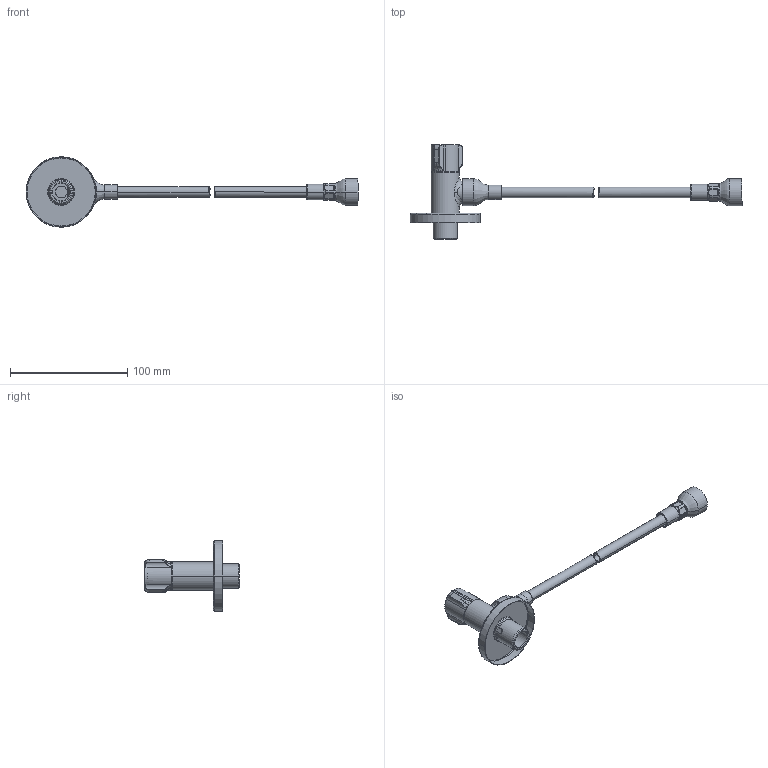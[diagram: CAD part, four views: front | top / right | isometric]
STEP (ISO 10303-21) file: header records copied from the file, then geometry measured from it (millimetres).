
FILE_DESCRIPTION((''),'2;1');
FILE_NAME('48755--00_ASM','2025-03-03T15:14:32',('clra1'),(''),'CREO PARAMETRIC BY PTC INC, 2022244','CREO PARAMETRIC BY PTC INC, 2022244','');
FILE_SCHEMA(('CONFIG_CONTROL_DESIGN'));
Length unit declared in the file: millimetre
Products named in the file (19): 46790--; 4679100; 46789--; 46821--; 46822--_ASM; SPX_M10-DN6; SPX_MANCHET-DN6; SPX_SPX-DN6; 4968700_; SLANGE_NIPPEL_38_OML-DN6; SLANGE_PAKN_38; SLANGE_OML_38; SLANGE_NIPPEL_KOMPL_38-DN6_ASM; 4683400_ASM; 46836--; 46831--; 8904700; 4459800; 48755--00_ASM
Assembly tree (19 placements, depth 4):
  48755--00_ASM
    46822--_ASM
      46790--
      4679100
      46789--
      46821--
    4683400_ASM
      SPX_M10-DN6
      SPX_MANCHET-DN6  x2
      SPX_SPX-DN6
      4968700_
      SLANGE_NIPPEL_KOMPL_38-DN6_ASM
        SLANGE_NIPPEL_38_OML-DN6
        SLANGE_PAKN_38
        SLANGE_OML_38
    46836--
    46831--
    8904700
    4459800
Bounding box: 282.62 x 80.5 x 60 mm (x, y, z)
Volume: 34124.5 mm3; surface area: 54379.9 mm2
Topology: 17 solids, 27 shells, 912 faces, 2048 edges, 1208 vertices
Faces by surface type: cylinder 292, torus 193, plane 189, cone 112, bspline 106, sphere 14, revolution 6
Entity records: 32728 total; most frequent: CARTESIAN_POINT 12877, DIRECTION 4387, ORIENTED_EDGE 3914, EDGE_CURVE 1982, AXIS2_PLACEMENT_3D 1915, VERTEX_POINT 1172, CIRCLE 1085, EDGE_LOOP 950
